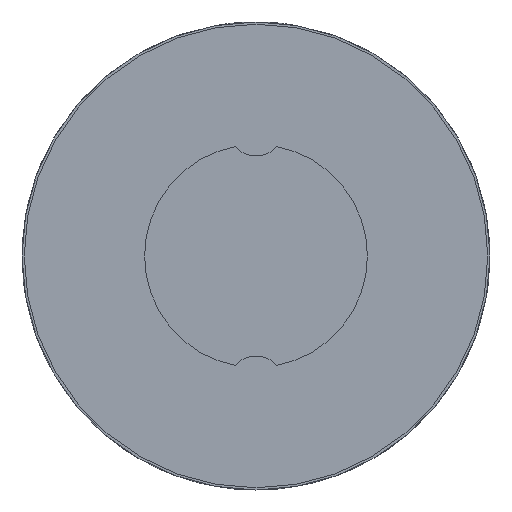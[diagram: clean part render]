
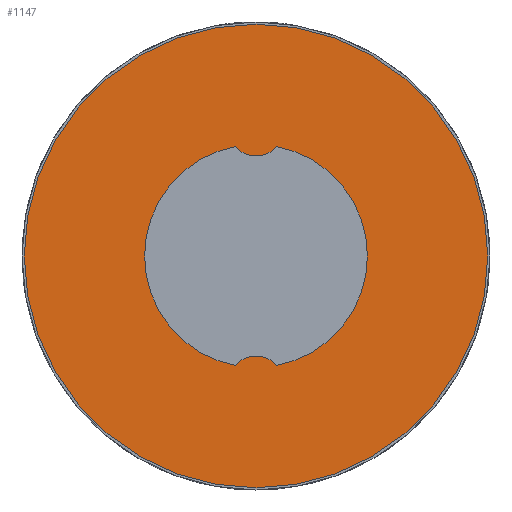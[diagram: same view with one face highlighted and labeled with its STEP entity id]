
A CAD part, left-side view. The second image highlights one B-rep face of the part: STEP entity #1147.
In plain terms, the highlighted planar face has unit normal (-1, 0, 0).
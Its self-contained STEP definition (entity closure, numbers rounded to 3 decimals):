
#808=CARTESIAN_POINT('',(0.0,-0.916,4.915));
#809=VERTEX_POINT('',#808);
#816=CARTESIAN_POINT('',(0.0,0.916,4.915));
#817=VERTEX_POINT('',#816);
#818=CARTESIAN_POINT('',(0.0,0.,5.676));
#819=DIRECTION('',(1.0,0.0,0.0));
#820=DIRECTION('',(0.0,-0.769,-0.639));
#821=AXIS2_PLACEMENT_3D('',#818,#819,#820);
#822=CIRCLE('',#821,1.191);
#823=EDGE_CURVE('',#809,#817,#822,.T.);
#850=CARTESIAN_POINT('',(0.0,0.916,-4.915));
#851=VERTEX_POINT('',#850);
#858=CARTESIAN_POINT('',(0.0,-0.916,-4.915));
#859=VERTEX_POINT('',#858);
#860=CARTESIAN_POINT('',(0.0,0.,-5.676));
#861=DIRECTION('',(1.0,0.0,0.0));
#862=DIRECTION('',(0.0,0.769,0.639));
#863=AXIS2_PLACEMENT_3D('',#860,#861,#862);
#864=CIRCLE('',#863,1.191);
#865=EDGE_CURVE('',#851,#859,#864,.T.);
#882=CARTESIAN_POINT('',(0.,0.0,0.));
#883=DIRECTION('',(-1.0,0.0,0.0));
#884=DIRECTION('',(0.0,0.0,1.0));
#885=AXIS2_PLACEMENT_3D('',#882,#883,#884);
#886=CIRCLE('',#885,5.);
#887=EDGE_CURVE('',#817,#851,#886,.T.);
#914=CARTESIAN_POINT('',(0.,0.0,0.));
#915=DIRECTION('',(-1.0,0.0,0.0));
#916=DIRECTION('',(0.0,0.0,1.0));
#917=AXIS2_PLACEMENT_3D('',#914,#915,#916);
#918=CIRCLE('',#917,5.);
#919=EDGE_CURVE('',#859,#809,#918,.T.);
#1118=CARTESIAN_POINT('',(0.,0.0,10.4));
#1119=VERTEX_POINT('',#1118);
#1120=CARTESIAN_POINT('',(0.,0.0,0.));
#1121=DIRECTION('',(-1.0,0.0,0.0));
#1122=DIRECTION('',(0.0,0.0,1.0));
#1123=AXIS2_PLACEMENT_3D('',#1120,#1121,#1122);
#1124=CIRCLE('',#1123,10.4);
#1125=EDGE_CURVE('',#1119,#1119,#1124,.T.);
#1133=CARTESIAN_POINT('',(0.,0.0,7.7));
#1134=DIRECTION('',(-1.0,0.0,0.0));
#1135=DIRECTION('',(0.0,0.0,1.0));
#1136=AXIS2_PLACEMENT_3D('',#1133,#1134,#1135);
#1137=PLANE('',#1136);
#1138=ORIENTED_EDGE('',*,*,#1125,.T.);
#1139=EDGE_LOOP('',(#1138));
#1140=FACE_OUTER_BOUND('',#1139,.T.);
#1141=ORIENTED_EDGE('',*,*,#919,.F.);
#1142=ORIENTED_EDGE('',*,*,#865,.F.);
#1143=ORIENTED_EDGE('',*,*,#887,.F.);
#1144=ORIENTED_EDGE('',*,*,#823,.F.);
#1145=EDGE_LOOP('',(#1141,#1142,#1143,#1144));
#1146=FACE_BOUND('',#1145,.T.);
#1147=ADVANCED_FACE('',(#1140,#1146),#1137,.T.);
